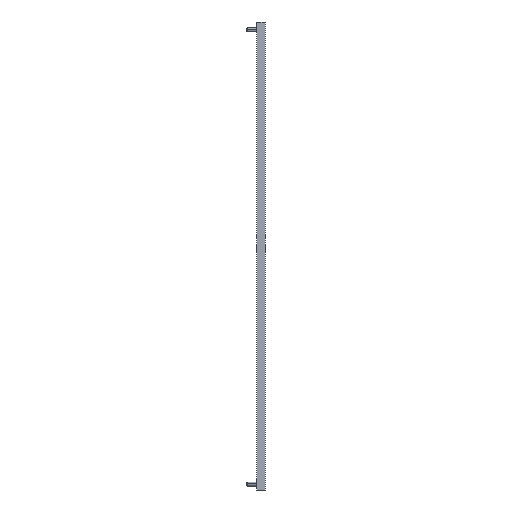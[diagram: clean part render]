
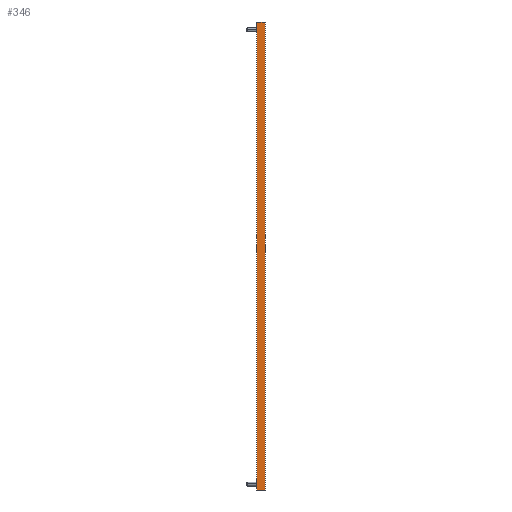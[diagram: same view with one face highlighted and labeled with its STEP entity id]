
A CAD part, left-side view. The second image highlights one B-rep face of the part: STEP entity #346.
In plain terms, the highlighted planar face has unit normal (-1, 0, 0).
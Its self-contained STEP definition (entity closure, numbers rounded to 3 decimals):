
#24 = CARTESIAN_POINT ( 'NONE',  ( -8., 0., 679. ) ) ;
#60 = VERTEX_POINT ( 'NONE', #2383 ) ;
#114 = CARTESIAN_POINT ( 'NONE',  ( -8., 9.3, 679. ) ) ;
#144 = CARTESIAN_POINT ( 'NONE',  ( -8., 0., 679. ) ) ;
#266 = VECTOR ( 'NONE', #291, 1000. ) ;
#291 = DIRECTION ( 'NONE',  ( 0., -1., 0. ) ) ;
#344 = DIRECTION ( 'NONE',  ( 0., -1., 0. ) ) ;
#346 = ADVANCED_FACE ( 'NONE', ( #1312 ), #822, .T. ) ;
#351 = CARTESIAN_POINT ( 'NONE',  ( -8., 3.2, 0. ) ) ;
#415 = CARTESIAN_POINT ( 'NONE',  ( -8., 12.5, 679. ) ) ;
#463 = CARTESIAN_POINT ( 'NONE',  ( -8., 0., 679. ) ) ;
#579 = CARTESIAN_POINT ( 'NONE',  ( -8., 0., 0. ) ) ;
#582 = DIRECTION ( 'NONE',  ( 0., -1., 0. ) ) ;
#599 = ORIENTED_EDGE ( 'NONE', *, *, #1819, .T. ) ;
#646 = VERTEX_POINT ( 'NONE', #2820 ) ;
#696 = CARTESIAN_POINT ( 'NONE',  ( -8., 0., 679. ) ) ;
#722 = CARTESIAN_POINT ( 'NONE',  ( -8., 0., 0. ) ) ;
#822 = PLANE ( 'NONE',  #2798 ) ;
#903 = DIRECTION ( 'NONE',  ( 0., -1., 0. ) ) ;
#917 = EDGE_LOOP ( 'NONE', ( #2949, #2262, #2130, #929, #3073, #1973, #599, #2826 ) ) ;
#929 = ORIENTED_EDGE ( 'NONE', *, *, #1028, .T. ) ;
#938 = VERTEX_POINT ( 'NONE', #2955 ) ;
#1026 = DIRECTION ( 'NONE',  ( 0., 1., 0. ) ) ;
#1028 = EDGE_CURVE ( 'NONE', #1543, #1938, #2825, .T. ) ;
#1169 = LINE ( 'NONE', #463, #1898 ) ;
#1312 = FACE_OUTER_BOUND ( 'NONE', #917, .T. ) ;
#1333 = DIRECTION ( 'NONE',  ( 0., 0., 1. ) ) ;
#1428 = VECTOR ( 'NONE', #2150, 1000. ) ;
#1543 = VERTEX_POINT ( 'NONE', #351 ) ;
#1552 = CARTESIAN_POINT ( 'NONE',  ( -8., 0., 679. ) ) ;
#1567 = EDGE_CURVE ( 'NONE', #60, #1543, #2892, .T. ) ;
#1599 = CARTESIAN_POINT ( 'NONE',  ( -8., 0., 0. ) ) ;
#1664 = EDGE_CURVE ( 'NONE', #1690, #2026, #1169, .T. ) ;
#1690 = VERTEX_POINT ( 'NONE', #696 ) ;
#1701 = DIRECTION ( 'NONE',  ( 0., 0., 1. ) ) ;
#1819 = EDGE_CURVE ( 'NONE', #2026, #2656, #2832, .T. ) ;
#1846 = VECTOR ( 'NONE', #582, 1000. ) ;
#1878 = CARTESIAN_POINT ( 'NONE',  ( -8., 0., 0. ) ) ;
#1893 = CARTESIAN_POINT ( 'NONE',  ( -8., 3.2, 679. ) ) ;
#1898 = VECTOR ( 'NONE', #3224, 1000. ) ;
#1925 = CARTESIAN_POINT ( 'NONE',  ( -8., 12.5, 679. ) ) ;
#1932 = LINE ( 'NONE', #415, #2249 ) ;
#1938 = VERTEX_POINT ( 'NONE', #579 ) ;
#1942 = LINE ( 'NONE', #1925, #2791 ) ;
#1973 = ORIENTED_EDGE ( 'NONE', *, *, #1664, .T. ) ;
#2026 = VERTEX_POINT ( 'NONE', #1893 ) ;
#2128 = EDGE_CURVE ( 'NONE', #1938, #1690, #2397, .T. ) ;
#2130 = ORIENTED_EDGE ( 'NONE', *, *, #1567, .T. ) ;
#2136 = VECTOR ( 'NONE', #903, 1000. ) ;
#2150 = DIRECTION ( 'NONE',  ( 0., 0., 1. ) ) ;
#2249 = VECTOR ( 'NONE', #344, 1000. ) ;
#2262 = ORIENTED_EDGE ( 'NONE', *, *, #2948, .T. ) ;
#2319 = DIRECTION ( 'NONE',  ( -1., 0., 0. ) ) ;
#2368 = VECTOR ( 'NONE', #1026, 1000. ) ;
#2383 = CARTESIAN_POINT ( 'NONE',  ( -8., 9.3, 0. ) ) ;
#2397 = LINE ( 'NONE', #144, #1428 ) ;
#2656 = VERTEX_POINT ( 'NONE', #114 ) ;
#2791 = VECTOR ( 'NONE', #1701, 1000. ) ;
#2798 = AXIS2_PLACEMENT_3D ( 'NONE', #1552, #2319, #1333 ) ;
#2820 = CARTESIAN_POINT ( 'NONE',  ( -8., 12.5, 679. ) ) ;
#2825 = LINE ( 'NONE', #1599, #266 ) ;
#2826 = ORIENTED_EDGE ( 'NONE', *, *, #3230, .F. ) ;
#2832 = LINE ( 'NONE', #24, #2368 ) ;
#2877 = EDGE_CURVE ( 'NONE', #938, #646, #1942, .T. ) ;
#2892 = LINE ( 'NONE', #1878, #1846 ) ;
#2948 = EDGE_CURVE ( 'NONE', #938, #60, #3219, .T. ) ;
#2949 = ORIENTED_EDGE ( 'NONE', *, *, #2877, .F. ) ;
#2955 = CARTESIAN_POINT ( 'NONE',  ( -8., 12.5, 0. ) ) ;
#3073 = ORIENTED_EDGE ( 'NONE', *, *, #2128, .T. ) ;
#3219 = LINE ( 'NONE', #722, #2136 ) ;
#3224 = DIRECTION ( 'NONE',  ( 0., 1., 0. ) ) ;
#3230 = EDGE_CURVE ( 'NONE', #646, #2656, #1932, .T. ) ;
